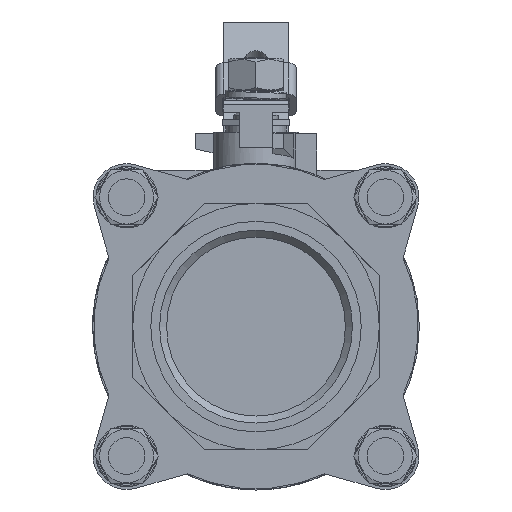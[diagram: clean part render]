
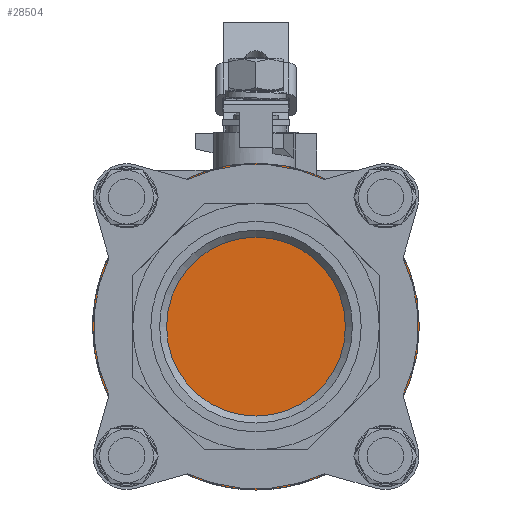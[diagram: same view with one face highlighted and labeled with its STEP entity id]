
A CAD part, left-side view. The second image highlights one B-rep face of the part: STEP entity #28504.
In plain terms, the highlighted planar face has unit normal (-1, 0, 0).
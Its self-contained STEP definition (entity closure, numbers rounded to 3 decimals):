
#27588 = CYLINDRICAL_SURFACE('',#27589,2.754);
#27589 = AXIS2_PLACEMENT_3D('',#27590,#27591,#27592);
#27590 = CARTESIAN_POINT('',(1.83,0.,2.078));
#27591 = DIRECTION('',(-1.,0.,0.));
#27592 = DIRECTION('',(0.,-1.,0.));
#28452 = VERTEX_POINT('',#28453);
#28453 = CARTESIAN_POINT('',(1.83,-2.754,2.078));
#28473 = EDGE_CURVE('',#28452,#28452,#28474,.T.);
#28474 = SURFACE_CURVE('',#28475,(#28480,#28487),.PCURVE_S1.);
#28475 = CIRCLE('',#28476,2.754);
#28476 = AXIS2_PLACEMENT_3D('',#28477,#28478,#28479);
#28477 = CARTESIAN_POINT('',(1.83,0.,2.078));
#28478 = DIRECTION('',(-1.,0.,0.));
#28479 = DIRECTION('',(0.,-1.,0.));
#28480 = PCURVE('',#27588,#28481);
#28481 = DEFINITIONAL_REPRESENTATION('',(#28482),#28486);
#28482 = LINE('',#28483,#28484);
#28483 = CARTESIAN_POINT('',(0.,0.));
#28484 = VECTOR('',#28485,1.);
#28485 = DIRECTION('',(1.,0.));
#28486 = ( GEOMETRIC_REPRESENTATION_CONTEXT(2) 
PARAMETRIC_REPRESENTATION_CONTEXT() REPRESENTATION_CONTEXT('2D SPACE',''
  ) );
#28487 = PCURVE('',#28488,#28493);
#28488 = PLANE('',#28489);
#28489 = AXIS2_PLACEMENT_3D('',#28490,#28491,#28492);
#28490 = CARTESIAN_POINT('',(1.83,0.,2.078));
#28491 = DIRECTION('',(-1.,0.,0.));
#28492 = DIRECTION('',(0.,0.,1.));
#28493 = DEFINITIONAL_REPRESENTATION('',(#28494),#28498);
#28494 = CIRCLE('',#28495,2.754);
#28495 = AXIS2_PLACEMENT_2D('',#28496,#28497);
#28496 = CARTESIAN_POINT('',(0.,0.));
#28497 = DIRECTION('',(0.,-1.));
#28498 = ( GEOMETRIC_REPRESENTATION_CONTEXT(2) 
PARAMETRIC_REPRESENTATION_CONTEXT() REPRESENTATION_CONTEXT('2D SPACE',''
  ) );
#28504 = ADVANCED_FACE('',(#28505),#28488,.T.);
#28505 = FACE_BOUND('',#28506,.T.);
#28506 = EDGE_LOOP('',(#28507));
#28507 = ORIENTED_EDGE('',*,*,#28473,.T.);
